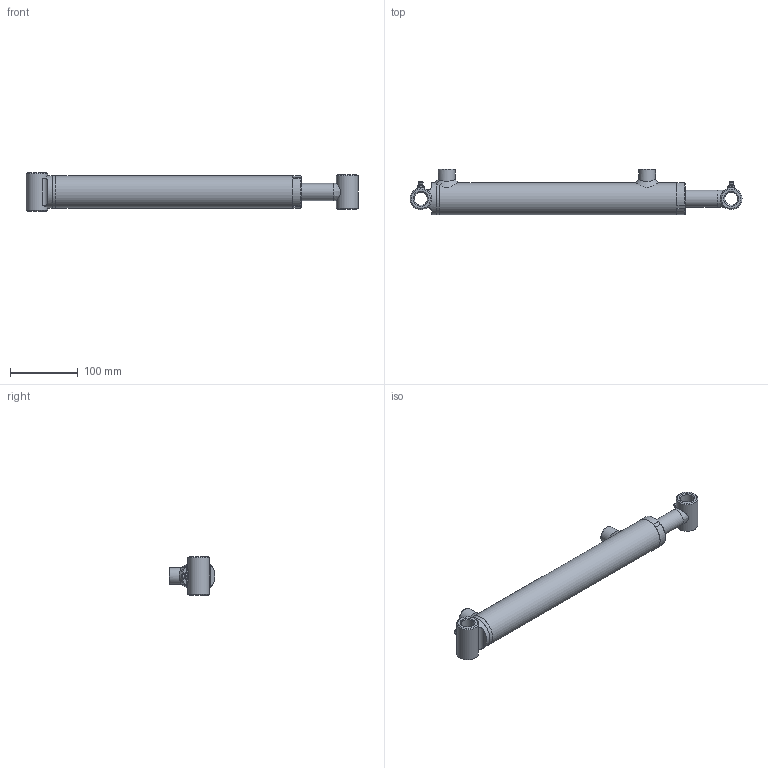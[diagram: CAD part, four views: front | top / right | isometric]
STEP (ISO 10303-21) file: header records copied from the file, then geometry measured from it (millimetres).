
FILE_DESCRIPTION(/* description */ (''),/* implementation_level */ '2;1');
FILE_NAME(/* name */ 'C:\01 - Philip\00 - Philip Rivard\01 - Contracts\Eagle Hydraulic Components\00 - 3D Cylinder\01 - Standard\HBU\HBU15XX\STEP Files\HBU1510.stp',/* time_stamp */ '2015-05-06T16:18:02-04:00',/* author */ ('Philip'),/* organization */ (''),/* preprocessor_version */ 'ST-DEVELOPER v16.1',/* originating_system */ 'Autodesk Inventor 2016',/* authorisation */ '');
FILE_SCHEMA (('AUTOMOTIVE_DESIGN { 1 0 10303 214 3 1 1 }'));
Length unit declared in the file: inch
Products named in the file (12): Tube_HBU_Welds; Tube; Straight_Port; ECP-15-HBU; Tube_HBU; Gland; Rod_HBU_Welds; Rod; Bushing; Rod_HBU; Grease Fitting 1-8; Cylinder_Assembly
Assembly tree (13 placements, depth 3):
  Cylinder_Assembly
    Tube_HBU
      Tube_HBU_Welds
      Tube
      Straight_Port  x2
      ECP-15-HBU
    Gland
    Rod_HBU
      Rod_HBU_Welds
      Rod
      Bushing
    Grease Fitting 1-8  x2
Bounding box: 488.95 x 67.62 x 57.2 mm (x, y, z)
Volume: 556639.3 mm3; surface area: 179539.2 mm2
Topology: 12 solids, 12 shells, 206 faces, 457 edges, 278 vertices
Faces by surface type: cone 65, plane 59, cylinder 53, torus 15, bspline 12, sphere 2
Full cylindrical faces by diameter (mm): 4 x2, 5 x1, 7.5 x2, 8 x2, 10 x2, 12.751 x2, 19.05 x2, 19.3 x2, 19.65 x1, 19.9 x1, 22 x1, 25 x4, 25.4 x2, 31.75 x2, 31.8 x1, 35 x1, 37.897 x1, 38.05 x1, 38.1 x1, 40 x1, 42 x2, 43 x1, 47.6 x1, 47.625 x1
Entity records: 6355 total; most frequent: CARTESIAN_POINT 2962, DIRECTION 666, ORIENTED_EDGE 538, AXIS2_PLACEMENT_3D 305, EDGE_LOOP 276, EDGE_CURVE 269, VERTEX_POINT 205, ADVANCED_FACE 166
